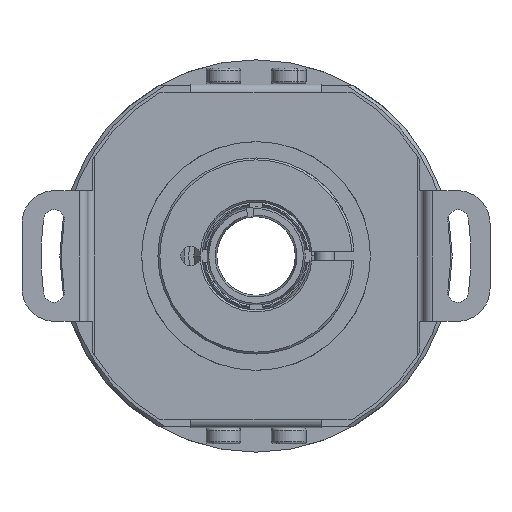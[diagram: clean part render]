
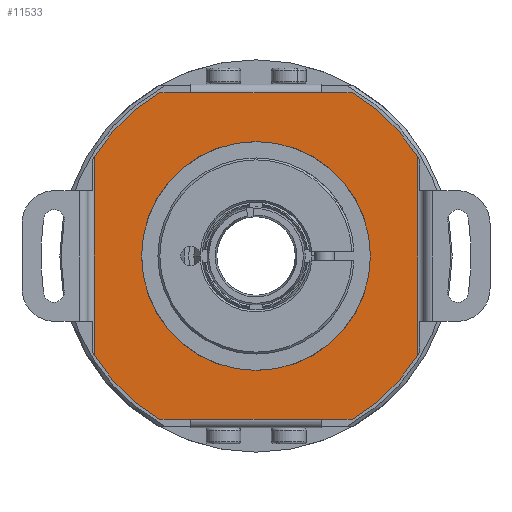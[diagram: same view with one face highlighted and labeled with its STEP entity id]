
A CAD part, front view. The second image highlights one B-rep face of the part: STEP entity #11533.
In plain terms, the highlighted planar face has unit normal (0, -1, 0).
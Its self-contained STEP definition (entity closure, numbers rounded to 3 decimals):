
#9 = CARTESIAN_POINT ( 'NONE',  ( -14.697, -4.194, 25. ) ) ;
#2777 = CARTESIAN_POINT ( 'NONE',  ( 14.697, -4.194, -25. ) ) ;
#4662 = VERTEX_POINT ( 'NONE', #7727 ) ;
#5916 = EDGE_LOOP ( 'NONE', ( #10048, #14333, #32060, #45031, #13396, #29131, #38060, #25640, #18191, #54090, #43922, #33768 ) ) ;
#6261 = VERTEX_POINT ( 'NONE', #25907 ) ;
#6276 = CIRCLE ( 'NONE', #24212, 17.5 ) ;
#6671 = CARTESIAN_POINT ( 'NONE',  ( 24.7, -4.194, -15.196 ) ) ;
#6738 = DIRECTION ( 'NONE',  ( 0., 0., 1. ) ) ;
#7385 = CARTESIAN_POINT ( 'NONE',  ( 25., -4.194, 25. ) ) ;
#7441 = CARTESIAN_POINT ( 'NONE',  ( 14.697, -4.194, 25. ) ) ;
#7727 = CARTESIAN_POINT ( 'NONE',  ( 24.7, -4.194, 15.196 ) ) ;
#7946 = DIRECTION ( 'NONE',  ( 0., -1., 0. ) ) ;
#8317 = EDGE_CURVE ( 'NONE', #22959, #50089, #25457, .T. ) ;
#8364 = CARTESIAN_POINT ( 'NONE',  ( -10., -4.194, 25. ) ) ;
#8368 = EDGE_CURVE ( 'NONE', #4662, #12729, #31312, .T. ) ;
#8590 = EDGE_LOOP ( 'NONE', ( #34699, #12959 ) ) ;
#8842 = VECTOR ( 'NONE', #25436, 1000. ) ;
#10048 = ORIENTED_EDGE ( 'NONE', *, *, #27047, .F. ) ;
#10647 = EDGE_CURVE ( 'NONE', #44836, #4662, #34809, .T. ) ;
#11146 = LINE ( 'NONE', #38021, #24929 ) ;
#11533 = ADVANCED_FACE ( 'NONE', ( #44533, #17598 ), #13302, .T. ) ;
#12234 = EDGE_CURVE ( 'NONE', #44664, #6261, #6276, .T. ) ;
#12729 = VERTEX_POINT ( 'NONE', #7441 ) ;
#12956 = VECTOR ( 'NONE', #47449, 1000. ) ;
#12959 = ORIENTED_EDGE ( 'NONE', *, *, #48757, .F. ) ;
#13267 = VERTEX_POINT ( 'NONE', #51559 ) ;
#13276 = CIRCLE ( 'NONE', #32761, 29. ) ;
#13302 = PLANE ( 'NONE',  #43519 ) ;
#13396 = ORIENTED_EDGE ( 'NONE', *, *, #34653, .F. ) ;
#14206 = AXIS2_PLACEMENT_3D ( 'NONE', #23093, #27329, #31495 ) ;
#14333 = ORIENTED_EDGE ( 'NONE', *, *, #53481, .T. ) ;
#14581 = DIRECTION ( 'NONE',  ( 0., 0., 1. ) ) ;
#14774 = DIRECTION ( 'NONE',  ( 0., 1., 0. ) ) ;
#15040 = CARTESIAN_POINT ( 'NONE',  ( 0., -4.194, 0. ) ) ;
#15807 = DIRECTION ( 'NONE',  ( 1., 0., 0. ) ) ;
#16093 = CARTESIAN_POINT ( 'NONE',  ( 24.7, -4.194, -35.2 ) ) ;
#16201 = VECTOR ( 'NONE', #14581, 1000. ) ;
#16656 = DIRECTION ( 'NONE',  ( 0., 0., -1. ) ) ;
#17598 = FACE_BOUND ( 'NONE', #8590, .T. ) ;
#18004 = VECTOR ( 'NONE', #19436, 1000. ) ;
#18191 = ORIENTED_EDGE ( 'NONE', *, *, #37739, .F. ) ;
#18470 = CARTESIAN_POINT ( 'NONE',  ( -5., -4.194, -35.2 ) ) ;
#19436 = DIRECTION ( 'NONE',  ( -1., 0., 0. ) ) ;
#19592 = CIRCLE ( 'NONE', #48860, 29. ) ;
#20362 = CARTESIAN_POINT ( 'NONE',  ( -24.7, -4.194, -15.196 ) ) ;
#22959 = VERTEX_POINT ( 'NONE', #24378 ) ;
#23093 = CARTESIAN_POINT ( 'NONE',  ( 0., -4.194, 0. ) ) ;
#23478 = DIRECTION ( 'NONE',  ( 0., 0., -1. ) ) ;
#23680 = DIRECTION ( 'NONE',  ( 0., -1., 0. ) ) ;
#24094 = VERTEX_POINT ( 'NONE', #9 ) ;
#24212 = AXIS2_PLACEMENT_3D ( 'NONE', #46195, #33141, #16656 ) ;
#24378 = CARTESIAN_POINT ( 'NONE',  ( 10., -4.194, -25. ) ) ;
#24911 = CIRCLE ( 'NONE', #14206, 17.5 ) ;
#24929 = VECTOR ( 'NONE', #50487, 1000. ) ;
#24992 = DIRECTION ( 'NONE',  ( 0., 0., -1. ) ) ;
#25348 = VECTOR ( 'NONE', #36194, 1000. ) ;
#25414 = LINE ( 'NONE', #31587, #16201 ) ;
#25436 = DIRECTION ( 'NONE',  ( 1., 0., 0. ) ) ;
#25457 = LINE ( 'NONE', #27120, #12956 ) ;
#25462 = DIRECTION ( 'NONE',  ( 0., 0., 1. ) ) ;
#25640 = ORIENTED_EDGE ( 'NONE', *, *, #8368, .T. ) ;
#25907 = CARTESIAN_POINT ( 'NONE',  ( 0., -4.194, 17.5 ) ) ;
#26364 = CARTESIAN_POINT ( 'NONE',  ( -10., -4.194, -25. ) ) ;
#27047 = EDGE_CURVE ( 'NONE', #43448, #50719, #25414, .T. ) ;
#27120 = CARTESIAN_POINT ( 'NONE',  ( -5., -4.194, -25. ) ) ;
#27329 = DIRECTION ( 'NONE',  ( 0., -1., 0. ) ) ;
#27456 = CIRCLE ( 'NONE', #35324, 29. ) ;
#27464 = VERTEX_POINT ( 'NONE', #2777 ) ;
#27714 = CARTESIAN_POINT ( 'NONE',  ( -25., -4.194, -25. ) ) ;
#28221 = CARTESIAN_POINT ( 'NONE',  ( -24.7, -4.194, 15.196 ) ) ;
#28388 = CARTESIAN_POINT ( 'NONE',  ( 10., -4.194, 25. ) ) ;
#28514 = LINE ( 'NONE', #27714, #18004 ) ;
#28920 = VERTEX_POINT ( 'NONE', #28388 ) ;
#29131 = ORIENTED_EDGE ( 'NONE', *, *, #31411, .F. ) ;
#29544 = DIRECTION ( 'NONE',  ( 0., 1., 0. ) ) ;
#31017 = CARTESIAN_POINT ( 'NONE',  ( 0., -4.194, -17.5 ) ) ;
#31304 = CARTESIAN_POINT ( 'NONE',  ( 10., -4.194, -25. ) ) ;
#31312 = CIRCLE ( 'NONE', #44000, 29. ) ;
#31411 = EDGE_CURVE ( 'NONE', #44836, #27464, #19592, .T. ) ;
#31495 = DIRECTION ( 'NONE',  ( 0., 0., -1. ) ) ;
#31587 = CARTESIAN_POINT ( 'NONE',  ( -24.7, -4.194, -35.2 ) ) ;
#32060 = ORIENTED_EDGE ( 'NONE', *, *, #38785, .F. ) ;
#32495 = CARTESIAN_POINT ( 'NONE',  ( 0., -4.194, 0. ) ) ;
#32761 = AXIS2_PLACEMENT_3D ( 'NONE', #15040, #23680, #23478 ) ;
#33141 = DIRECTION ( 'NONE',  ( 0., -1., 0. ) ) ;
#33525 = LINE ( 'NONE', #31304, #40785 ) ;
#33768 = ORIENTED_EDGE ( 'NONE', *, *, #49313, .F. ) ;
#33782 = LINE ( 'NONE', #8364, #8842 ) ;
#34016 = DIRECTION ( 'NONE',  ( 0., 0., -1. ) ) ;
#34653 = EDGE_CURVE ( 'NONE', #27464, #22959, #33525, .T. ) ;
#34699 = ORIENTED_EDGE ( 'NONE', *, *, #12234, .F. ) ;
#34809 = LINE ( 'NONE', #16093, #40063 ) ;
#35324 = AXIS2_PLACEMENT_3D ( 'NONE', #39934, #14774, #6738 ) ;
#36194 = DIRECTION ( 'NONE',  ( 1., 0., 0. ) ) ;
#36521 = LINE ( 'NONE', #7385, #25348 ) ;
#37739 = EDGE_CURVE ( 'NONE', #28920, #12729, #36521, .T. ) ;
#38021 = CARTESIAN_POINT ( 'NONE',  ( -5., -4.194, 25. ) ) ;
#38060 = ORIENTED_EDGE ( 'NONE', *, *, #10647, .T. ) ;
#38785 = EDGE_CURVE ( 'NONE', #50089, #45643, #28514, .T. ) ;
#39437 = EDGE_CURVE ( 'NONE', #24094, #13267, #33782, .T. ) ;
#39511 = CARTESIAN_POINT ( 'NONE',  ( -14.697, -4.194, -25. ) ) ;
#39934 = CARTESIAN_POINT ( 'NONE',  ( 0., -4.194, 0. ) ) ;
#40063 = VECTOR ( 'NONE', #25462, 1000. ) ;
#40785 = VECTOR ( 'NONE', #48035, 1000. ) ;
#43448 = VERTEX_POINT ( 'NONE', #20362 ) ;
#43519 = AXIS2_PLACEMENT_3D ( 'NONE', #18470, #50760, #34016 ) ;
#43922 = ORIENTED_EDGE ( 'NONE', *, *, #39437, .F. ) ;
#44000 = AXIS2_PLACEMENT_3D ( 'NONE', #32495, #7946, #15807 ) ;
#44533 = FACE_OUTER_BOUND ( 'NONE', #5916, .T. ) ;
#44664 = VERTEX_POINT ( 'NONE', #31017 ) ;
#44836 = VERTEX_POINT ( 'NONE', #6671 ) ;
#45031 = ORIENTED_EDGE ( 'NONE', *, *, #8317, .F. ) ;
#45643 = VERTEX_POINT ( 'NONE', #39511 ) ;
#46195 = CARTESIAN_POINT ( 'NONE',  ( 0., -4.194, 0. ) ) ;
#47449 = DIRECTION ( 'NONE',  ( -1., 0., 0. ) ) ;
#48035 = DIRECTION ( 'NONE',  ( -1., 0., 0. ) ) ;
#48757 = EDGE_CURVE ( 'NONE', #6261, #44664, #24911, .T. ) ;
#48860 = AXIS2_PLACEMENT_3D ( 'NONE', #50299, #29544, #24992 ) ;
#49313 = EDGE_CURVE ( 'NONE', #50719, #24094, #27456, .T. ) ;
#50089 = VERTEX_POINT ( 'NONE', #26364 ) ;
#50299 = CARTESIAN_POINT ( 'NONE',  ( 0., -4.194, 0. ) ) ;
#50487 = DIRECTION ( 'NONE',  ( -1., 0., 0. ) ) ;
#50719 = VERTEX_POINT ( 'NONE', #28221 ) ;
#50760 = DIRECTION ( 'NONE',  ( 0., -1., 0. ) ) ;
#51559 = CARTESIAN_POINT ( 'NONE',  ( -10., -4.194, 25. ) ) ;
#53481 = EDGE_CURVE ( 'NONE', #43448, #45643, #13276, .T. ) ;
#54090 = ORIENTED_EDGE ( 'NONE', *, *, #54252, .T. ) ;
#54252 = EDGE_CURVE ( 'NONE', #28920, #13267, #11146, .T. ) ;
